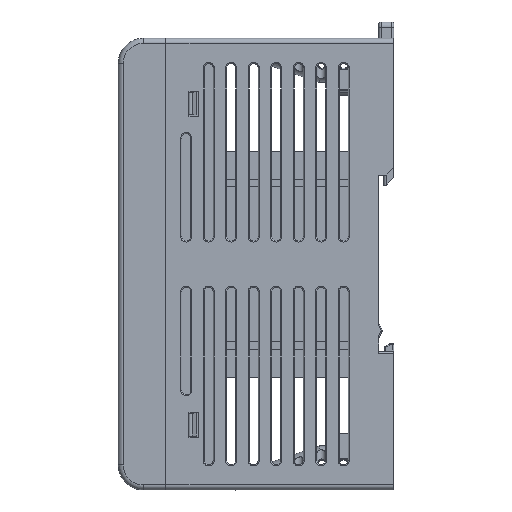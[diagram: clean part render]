
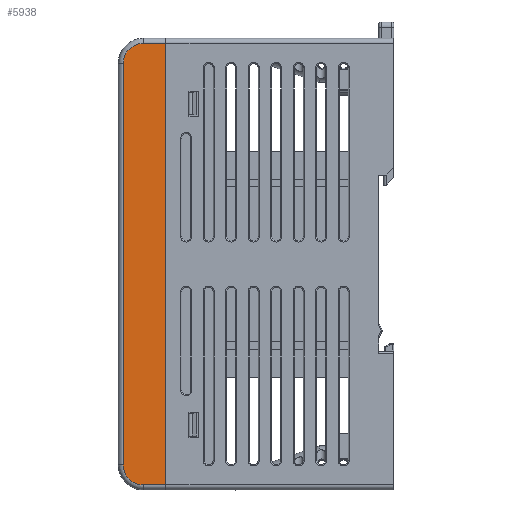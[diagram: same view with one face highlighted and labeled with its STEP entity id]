
A CAD part, left-side view. The second image highlights one B-rep face of the part: STEP entity #5938.
In plain terms, the highlighted planar face has unit normal (-1, 0, 0).
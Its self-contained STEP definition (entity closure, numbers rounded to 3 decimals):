
#52=DIRECTION('',(0.,0.,1.));
#53=VECTOR('',#52,88.);
#54=CARTESIAN_POINT('',(-12.5,0.,-44.));
#55=LINE('',#54,#53);
#202=DIRECTION('',(0.,-1.,0.));
#203=VECTOR('',#202,4.4);
#204=CARTESIAN_POINT('',(-12.5,4.4,-44.));
#205=LINE('',#204,#203);
#209=CARTESIAN_POINT('',(-12.5,4.4,-40.));
#210=DIRECTION('',(-1.,0.,0.));
#211=DIRECTION('',(0.,1.,0.));
#212=AXIS2_PLACEMENT_3D('',#209,#210,#211);
#217=DIRECTION('',(0.,0.,-1.));
#218=VECTOR('',#217,80.);
#219=CARTESIAN_POINT('',(-12.5,8.4,40.));
#220=LINE('',#219,#218);
#224=CARTESIAN_POINT('',(-12.5,4.4,40.));
#225=DIRECTION('',(-1.,0.,0.));
#226=DIRECTION('',(0.,0.,1.));
#227=AXIS2_PLACEMENT_3D('',#224,#225,#226);
#232=DIRECTION('',(0.,1.,0.));
#233=VECTOR('',#232,4.4);
#234=CARTESIAN_POINT('',(-12.5,0.,44.));
#235=LINE('',#234,#233);
#5172=CARTESIAN_POINT('',(-12.5,0.,-44.));
#5174=VERTEX_POINT('',#5172);
#5178=CARTESIAN_POINT('',(-12.5,4.4,-44.));
#5179=VERTEX_POINT('',#5178);
#5180=CARTESIAN_POINT('',(-12.5,8.4,-40.));
#5181=VERTEX_POINT('',#5180);
#5184=CARTESIAN_POINT('',(-12.5,8.4,40.));
#5185=VERTEX_POINT('',#5184);
#5188=CARTESIAN_POINT('',(-12.5,4.4,44.));
#5189=VERTEX_POINT('',#5188);
#5193=CARTESIAN_POINT('',(-12.5,0.,44.));
#5195=VERTEX_POINT('',#5193);
#5921=CARTESIAN_POINT('',(-12.5,0.,-45.));
#5922=DIRECTION('',(-1.,0.,0.));
#5923=DIRECTION('',(0.,0.,1.));
#5924=AXIS2_PLACEMENT_3D('',#5921,#5922,#5923);
#5925=PLANE('',#5924);
#5926=ORIENTED_EDGE('',*,*,#5846,.F.);
#5928=ORIENTED_EDGE('',*,*,#5927,.F.);
#5930=ORIENTED_EDGE('',*,*,#5929,.F.);
#5932=ORIENTED_EDGE('',*,*,#5931,.F.);
#5934=ORIENTED_EDGE('',*,*,#5933,.F.);
#5935=ORIENTED_EDGE('',*,*,#5857,.F.);
#5936=EDGE_LOOP('',(#5926,#5928,#5930,#5932,#5934,#5935));
#5937=FACE_OUTER_BOUND('',#5936,.F.);
#5938=ADVANCED_FACE('',(#5937),#5925,.T.);
#213=CIRCLE('',#212,4.);
#228=CIRCLE('',#227,4.);
#5846=EDGE_CURVE('',#5179,#5174,#205,.T.);
#5857=EDGE_CURVE('',#5174,#5195,#55,.T.);
#5927=EDGE_CURVE('',#5181,#5179,#213,.T.);
#5929=EDGE_CURVE('',#5185,#5181,#220,.T.);
#5931=EDGE_CURVE('',#5189,#5185,#228,.T.);
#5933=EDGE_CURVE('',#5195,#5189,#235,.T.);
